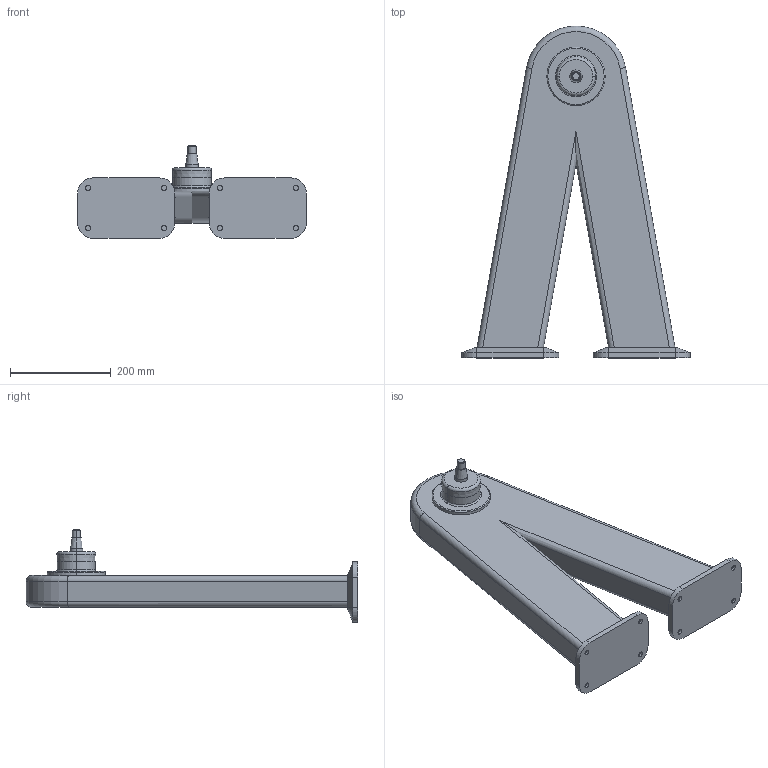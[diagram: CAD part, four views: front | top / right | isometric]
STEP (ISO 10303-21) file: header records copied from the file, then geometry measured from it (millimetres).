
FILE_DESCRIPTION (( 'STEP AP214' ), '1' );
FILE_NAME ('WP850_H560.STEP', '2014-09-08T13:00:21', ( '' ), ( '' ), 'SwSTEP 2.0', 'SolidWorks 2014', '' );
FILE_SCHEMA (( 'AUTOMOTIVE_DESIGN' ));
Length unit declared in the file: millimetre
Products named in the file (1): WP850_H560
Bounding box: 454.51 x 660 x 183.98 mm (x, y, z)
Volume: 10568437.3 mm3; surface area: 523466.8 mm2
Topology: 1 solids, 1 shells, 101 faces, 221 edges, 136 vertices
Faces by surface type: cylinder 41, plane 38, cone 14, torus 8
Entity records: 2795 total; most frequent: DIRECTION 513, CARTESIAN_POINT 489, ORIENTED_EDGE 442, EDGE_CURVE 221, AXIS2_PLACEMENT_3D 200, VERTEX_POINT 136, EDGE_LOOP 115, VECTOR 113
